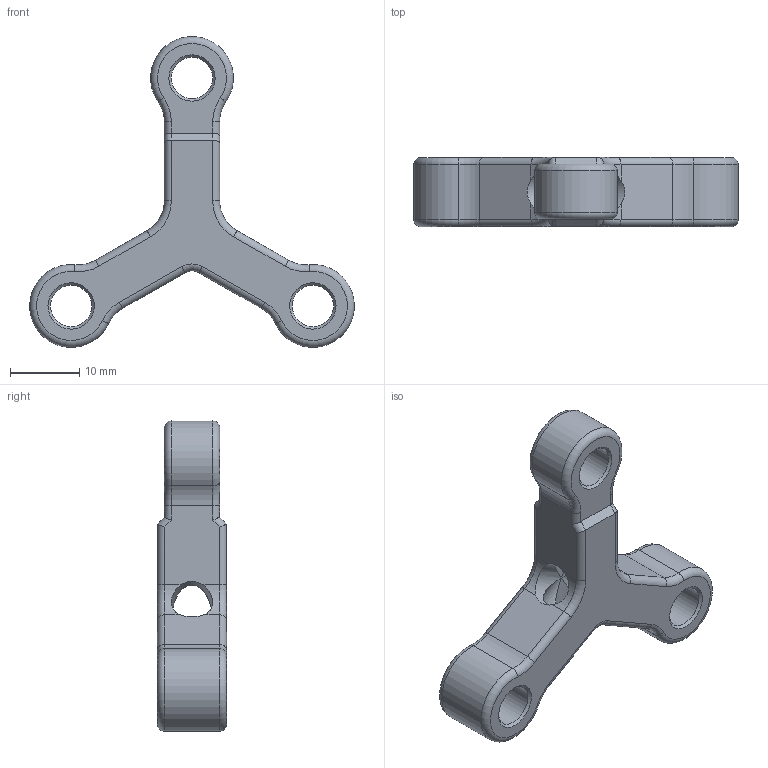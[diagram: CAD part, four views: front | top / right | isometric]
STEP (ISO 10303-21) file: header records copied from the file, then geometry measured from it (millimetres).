
FILE_DESCRIPTION(/* description */ (''),/* implementation_level */ '2;1');
FILE_NAME(/* name */ 'WHEELS_04_dwg.stp',/* time_stamp */ '2017-12-06T13:48:39+01:00',/* author */ (''),/* organization */ (''),/* preprocessor_version */ 'ST-DEVELOPER v16',/* originating_system */ 'SIEMENS PLM Software NX 10.0',/* authorisation */ '');
FILE_SCHEMA (('AP203_CONFIGURATION_CONTROLLED_3D_DESIGN_OF_MECHANICAL_PARTS_AND_ASSEMBLIES_MIM_LF { 1 0 10303 403 2 1 2}'));
Length unit declared in the file: millimetre
Products named in the file (1): turc1DB80072j4hx
Bounding box: 46.96 x 10 x 44.96 mm (x, y, z)
Volume: 4269.4 mm3; surface area: 4065.4 mm2
Topology: 1 solids, 1 shells, 89 faces, 223 edges, 129 vertices
Faces by surface type: cylinder 44, torus 24, plane 12, cone 9
Full cylindrical faces by diameter (mm): 6 x9
Entity records: 2666 total; most frequent: CARTESIAN_POINT 511, DIRECTION 486, ORIENTED_EDGE 386, AXIS2_PLACEMENT_3D 209, EDGE_CURVE 193, VERTEX_POINT 120, EDGE_LOOP 110, CIRCLE 99
